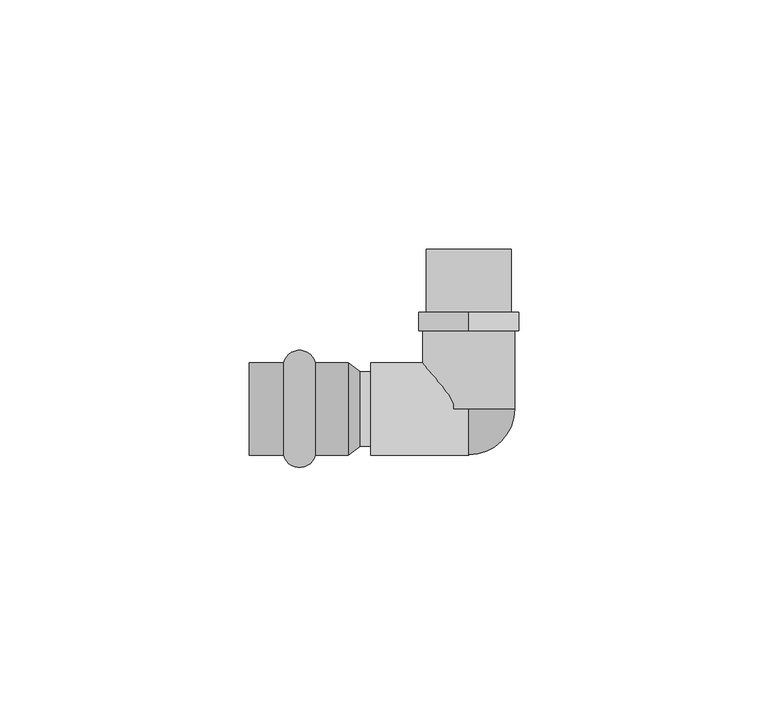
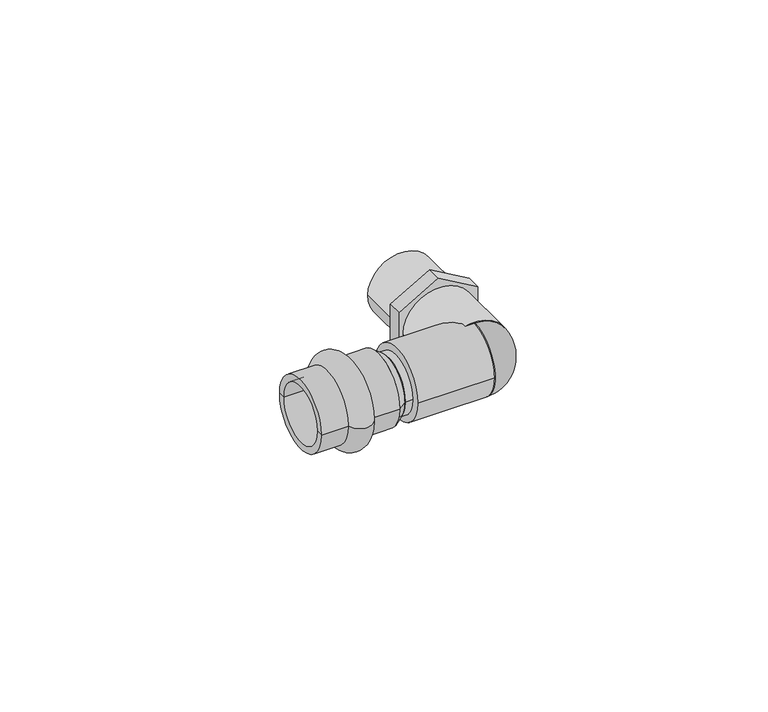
"""IFC4 building model written with IfcOpenShell, lengths in millimetres: pipe fitting geometry, VALTEC_VTi.953.I_Угольник с переходом на наружную резьбу нержавеющая сталь : VTi.953.I."""

from ifc_helpers import new_model, si_unit, point, frame, origin, origin_2d, place, context, project, spatial, polyline, circle_curve, ellipse_curve, trimmed, segment, composite_curve, outline, extrude, source, transform, mapped, element, save
from ifc_brep_helpers import plane_surface, cylinder_surface, revolved_surface, advanced_brep


def pipe_fitting_52c40f6b(model_context):
    return source(origin(), model_context, "Body", "SolidModel", [
        advanced_brep(
        [(-37.1122777, -9.25, 0.0), (-37.1122777, 9.25, 0.0), (-30.7877223, 9.25, 0.0), (-30.7877223, -9.25, 0.0), (-44.0, -9.25, 0.0), (-44.0, 9.25, 0.0), (-44.0, -7.5, 0.0), (-44.0, 7.5, 0.0), (-24.2, -7.5, 0.0), (-24.2, 7.5, 0.0), (-24.2, -9.25, 0.0), (-24.2, 9.25, 0.0)],
        [
            (0, 1, circle_curve(frame((-37.1122777, 0.0, 0.0), z_axis=(1.0, 0.0, 0.0), x_axis=(0.0, 1.0, 0.0)), 9.25)),
            (1, 2, circle_curve(frame((-33.95, 8.5, 0.0), z_axis=(0.0, 0.0, -1.0), x_axis=(1.0, 0.0, 0.0)), 3.25)),
            (2, 3, circle_curve(frame((-30.7877223, 0.0, 0.0), z_axis=(-1.0, 0.0, 0.0), x_axis=(0.0, 1.0, 0.0)), 9.25)),
            (3, 0, circle_curve(frame((-33.95, -8.5, 0.0), z_axis=(0.0, 0.0, -1.0), x_axis=(1.0, 0.0, 0.0)), 3.25)),
            (1, 0, circle_curve(frame((-37.1122777, 0.0, 0.0), z_axis=(1.0, 0.0, 0.0), x_axis=(0.0, 1.0, 0.0)), 9.25)),
            (3, 2, circle_curve(frame((-30.7877223, 0.0, 0.0), z_axis=(-1.0, 0.0, 0.0), x_axis=(0.0, 1.0, 0.0)), 9.25)),
            (4, 5, circle_curve(frame((-44.0, 0.0, 0.0), z_axis=(1.0, 0.0, 0.0), x_axis=(0.0, 1.0, 0.0)), 9.25)),
            (5, 1),
            (0, 4),
            (5, 4, circle_curve(frame((-44.0, 0.0, 0.0), z_axis=(1.0, 0.0, 0.0), x_axis=(0.0, 1.0, 0.0)), 9.25)),
            (6, 7, circle_curve(frame((-44.0, 0.0, 0.0), z_axis=(1.0, 0.0, 0.0), x_axis=(0.0, 1.0, 0.0)), 7.5)),
            (7, 5),
            (4, 6),
            (7, 6, circle_curve(frame((-44.0, 0.0, 0.0), z_axis=(1.0, 0.0, 0.0), x_axis=(0.0, 1.0, 0.0)), 7.5)),
            (8, 9, circle_curve(frame((-24.2, 0.0, 0.0), z_axis=(1.0, 0.0, 0.0), x_axis=(0.0, 1.0, 0.0)), 7.5)),
            (9, 7),
            (6, 8),
            (9, 8, circle_curve(frame((-24.2, 0.0, 0.0), z_axis=(1.0, 0.0, 0.0), x_axis=(0.0, 1.0, 0.0)), 7.5)),
            (10, 11, circle_curve(frame((-24.2, 0.0, 0.0), z_axis=(1.0, 0.0, 0.0), x_axis=(0.0, 1.0, 0.0)), 9.25)),
            (11, 9),
            (8, 10),
            (11, 10, circle_curve(frame((-24.2, 0.0, 0.0), z_axis=(1.0, 0.0, 0.0), x_axis=(0.0, 1.0, 0.0)), 9.25)),
            (2, 11),
            (10, 3),
        ],
        [
            revolved_surface(trimmed(ellipse_curve(frame((-33.95, 8.5, 0.0), z_axis=(0.0, 0.0, 1.0), x_axis=(1.0, 0.0, 0.0)), 3.25, 3.25), [point((-30.7877223, 9.25, 0.0))], [point((-37.1122777, 9.25, 0.0))], True, "CARTESIAN"), (-47.5364426, 0.0, 0.0), (-1.0, 0.0, 0.0)),
            cylinder_surface(frame((-47.5364426, 0.0, 0.0), z_axis=(-1.0, 0.0, 0.0), x_axis=(0.0, 1.0, 0.0)), 9.25),
            plane_surface(frame((-44.0, 0.0, 0.0), z_axis=(-1.0, 0.0, 0.0), x_axis=(0.0, 1.0, 0.0))),
            revolved_surface(polyline([(-44.0, 7.5, 0.0), (-24.2, 7.5, 0.0)]), (-47.5364426, 0.0, 0.0), (-1.0, 0.0, 0.0)),
            plane_surface(frame((-24.2, 0.0, 0.0), z_axis=(1.0, 0.0, 0.0), x_axis=(0.0, 1.0, 0.0))),
        ],
        [
            (0, [[1, 2, 3, 4]]),
            (0, [[5, -4, 6, -2]]),
            (1, [[7, 8, -1, 9]]),
            (1, [[10, -9, -5, -8]]),
            (2, [[11, 12, -7, 13]]),
            (2, [[14, -13, -10, -12]]),
            (3, [[15, 16, -11, 17]]),
            (3, [[18, -17, -14, -16]]),
            (4, [[19, 20, -15, 21]]),
            (4, [[22, -21, -18, -20]]),
            (1, [[-3, 23, -19, 24]]),
            (1, [[-6, -24, -22, -23]]),
        ],
    ),
        extrude(outline(composite_curve([segment(trimmed(circle_curve(origin_2d(), 8.5), [point((0.0, -8.5))], [point((0.0, 8.5))], False, "CARTESIAN"), True, "CONTINUOUS"), segment(trimmed(circle_curve(origin_2d(), 8.5), [point((0.0, 8.5))], [point((0.0, -8.5))], False, "CARTESIAN"), True, "CONTINUOUS")], self_intersect=False), holes=[composite_curve([segment(trimmed(circle_curve(origin_2d(), 7.5), [point((0.0, -7.5))], [point((0.0, 7.5))], True, "CARTESIAN"), True, "CONTINUOUS"), segment(trimmed(circle_curve(origin_2d(), 7.5), [point((0.0, 7.5))], [point((0.0, -7.5))], True, "CARTESIAN"), True, "CONTINUOUS")], self_intersect=False)]), frame((0.0, 19.4285714, 0.0), z_axis=(0.0, 1.0, 0.0), x_axis=(0.0, 0.0, 1.0)), (0.0, 0.0, 1.0), 12.5714286),
        extrude(outline(polyline([(11.5470054, 0.0), (5.7735027, -10.0), (-5.7735027, -10.0), (-11.5470054, 0.0), (-5.7735027, 10.0), (5.7735027, 10.0), (11.5470054, 0.0)]), holes=[composite_curve([segment(trimmed(circle_curve(origin_2d(), 7.5), [point((0.0, -7.5))], [point((0.0, 7.5))], True, "CARTESIAN"), True, "CONTINUOUS"), segment(trimmed(circle_curve(origin_2d(), 7.5), [point((0.0, 7.5))], [point((0.0, -7.5))], True, "CARTESIAN"), True, "CONTINUOUS")], self_intersect=False)]), frame((0.0, 15.6571429, 0.0), z_axis=(0.0, 1.0, 0.0), x_axis=(0.0, 0.0, 1.0)), (0.0, 0.0, 1.0), 3.7714286),
        extrude(outline(composite_curve([segment(trimmed(circle_curve(origin_2d(), 9.25), [point((0.0, -9.25))], [point((0.0, 9.25))], False, "CARTESIAN"), True, "CONTINUOUS"), segment(trimmed(circle_curve(origin_2d(), 9.25), [point((0.0, 9.25))], [point((0.0, -9.25))], False, "CARTESIAN"), True, "CONTINUOUS")], self_intersect=False)), frame((0.0, 0.0, 0.0), z_axis=(0.0, 1.0, 0.0), x_axis=(0.0, 0.0, 1.0)), (0.0, 0.0, 1.0), 15.6571429),
        advanced_brep(
        [(0.0, 0.0, -9.25), (0.0, 0.0, 9.25)],
        [
            (0, 1, circle_curve(frame((0.0, 0.0, 0.0), z_axis=(-1.0, 0.0, 0.0), x_axis=(0.0, -1.0, 0.0)), 9.25)),
            (1, 0),
            (1, 0, circle_curve(frame((0.0, 0.0, 0.0), z_axis=(0.0, 1.0, 0.0), x_axis=(1.0, 0.0, 0.0)), 9.25)),
        ],
        [
            plane_surface(frame((0.0, 0.0, 16.2586047), z_axis=(-1.0, 0.0, 0.0), x_axis=(0.0, -1.0, 0.0))),
            plane_surface(frame((0.0, 0.0, 16.2586047), z_axis=(0.0, 1.0, 0.0), x_axis=(1.0, 0.0, 0.0))),
            revolved_surface(trimmed(ellipse_curve(frame((0.0, 0.0, 0.0), z_axis=(-1.0, 0.0, 0.0), x_axis=(0.0, -1.0, 0.0)), 9.25, 9.25), [point((0.0, 0.0, -9.25))], [point((0.0, 0.0, 9.25))], True, "CARTESIAN"), (0.0, 0.0, 16.2586047), (0.0, 0.0, 1.0)),
        ],
        [
            (0, [[1, 2]]),
            (1, [[3, -2]]),
            (2, [[-1, -3]]),
        ],
    ),
        extrude(outline(composite_curve([segment(trimmed(circle_curve(origin_2d(), 9.25), [point((-9.25, 0.0))], [point((9.25, 0.0))], False, "CARTESIAN"), True, "CONTINUOUS"), segment(trimmed(circle_curve(origin_2d(), 9.25), [point((9.25, 0.0))], [point((-9.25, 0.0))], False, "CARTESIAN"), True, "CONTINUOUS")], self_intersect=False)), frame((-19.6390217, 0.0, 0.0), z_axis=(1.0, 0.0, 0.0), x_axis=(0.0, 1.0, 0.0)), (0.0, 0.0, 1.0), 19.6390217),
        extrude(outline(composite_curve([segment(trimmed(circle_curve(origin_2d(), 7.5), [point((-7.5, 0.0))], [point((7.5, 0.0))], False, "CARTESIAN"), True, "CONTINUOUS"), segment(trimmed(circle_curve(origin_2d(), 7.5), [point((7.5, 0.0))], [point((-7.5, 0.0))], False, "CARTESIAN"), True, "CONTINUOUS")], self_intersect=False)), frame((-21.78, 0.0, 0.0), z_axis=(1.0, 0.0, 0.0), x_axis=(0.0, 1.0, 0.0)), (0.0, 0.0, 1.0), 2.1409783),
        advanced_brep(
        [(-24.2, -9.25, 0.0), (-24.2, 9.25, 0.0), (-21.78, -7.5, 0.0), (-21.78, 7.5, 0.0)],
        [
            (0, 1, circle_curve(frame((-24.2, 0.0, 0.0), z_axis=(-1.0, 0.0, 0.0), x_axis=(0.0, -1.0, 0.0)), 9.25)),
            (1, 0, circle_curve(frame((-24.2, 0.0, 0.0), z_axis=(-1.0, 0.0, 0.0), x_axis=(0.0, 1.0, 0.0)), 9.25)),
            (2, 3, circle_curve(frame((-21.78, 0.0, 0.0), z_axis=(1.0, 0.0, 0.0), x_axis=(0.0, 1.0, 0.0)), 7.5)),
            (3, 2, circle_curve(frame((-21.78, 0.0, 0.0), z_axis=(1.0, 0.0, 0.0), x_axis=(0.0, -1.0, 0.0)), 7.5)),
            (2, 0),
            (1, 3),
        ],
        [
            plane_surface(frame((-24.2, 0.0, 0.0), z_axis=(-1.0, 0.0, 0.0), x_axis=(0.0, 0.0, -1.0))),
            plane_surface(frame((-21.78, 0.0, 0.0), z_axis=(1.0, 0.0, 0.0), x_axis=(0.0, 0.0, -1.0))),
            revolved_surface(polyline([(-21.78, -7.50000000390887, 0.0), (-24.2, -9.25, 0.0)]), (-11.4085714, 0.0, 0.0), (-1.0, 0.0, 0.0)),
            revolved_surface(polyline([(-21.78, 7.50000000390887, 0.0), (-24.2, 9.25, 0.0)]), (-11.4085714, 0.0, 0.0), (-1.0, 0.0, 0.0)),
        ],
        [
            (0, [[1, 2]]),
            (1, [[3, 4]]),
            (2, [[-3, 5, -2, 6]]),
            (3, [[-4, -6, -1, -5]]),
        ],
    ),
    ])


if __name__ == "__main__":
    model = new_model("IFC4")
    model_context = context("Model", 3, world=origin())
    ifc_project = project(units=[si_unit("LENGTHUNIT", "METRE", prefix="MILLI")], contexts=[model_context])
    site = spatial("IfcSite", under=ifc_project)
    building = spatial("IfcBuilding", under=site)
    placement = place(None, origin())
    pipe_fitting_shape = pipe_fitting_52c40f6b(model_context)
    element("IfcPipeFitting", 1, ObjectType="VALTEC_VTi.953.I_Угольник с переходом на наружную резьбу нержавеющая сталь : VTi.953.I", at=placement, inside=building, context=model_context, shape_type="MappedRepresentation", body=[
        mapped(pipe_fitting_shape, transform((0.0, 0.0, 0.0), x_axis=(1.0, 0.0, 0.0), y_axis=(0.0, 1.0, 0.0), z_axis=(0.0, 0.0, 1.0))),
    ])
    save(model, "model.ifc")
